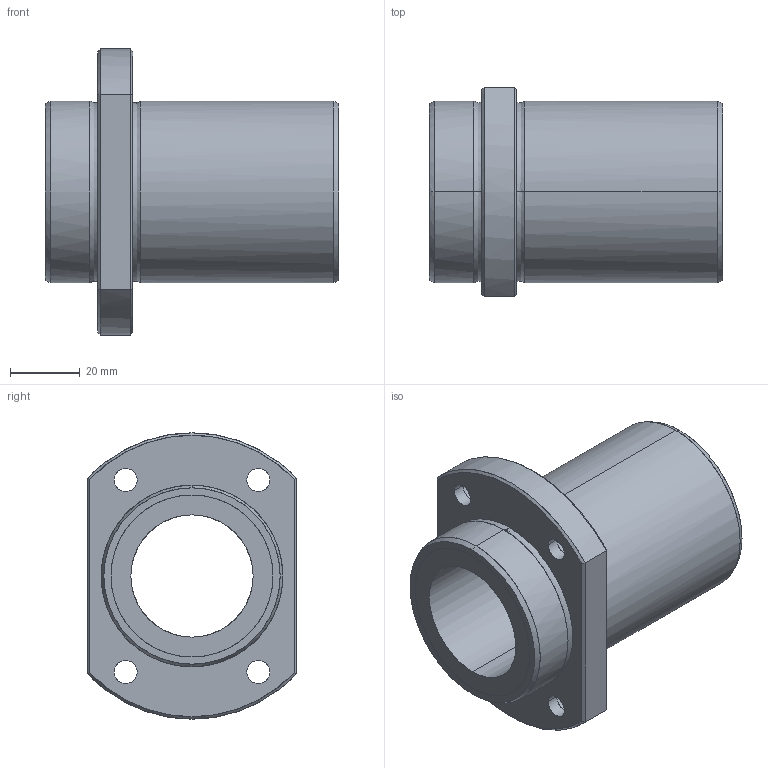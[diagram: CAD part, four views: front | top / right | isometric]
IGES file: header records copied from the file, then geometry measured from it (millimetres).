
Global section: file name: No Iges File Name specified; native system: AutoDesk Inventor R11.0; preprocessor: AutoDesk Inventor Iges Exporter R11.0; author: No Author specified; organization: No Organization specified; date: 20170921.135405; units: millimetre
Bounding box: 84 x 60 x 82 mm (x, y, z)
Surface area: 31402.9 mm2 (no closed solid volume)
Topology: 0 solids, 0 shells, 57 faces, 382 edges, 382 vertices
Faces by surface type: bspline 57
